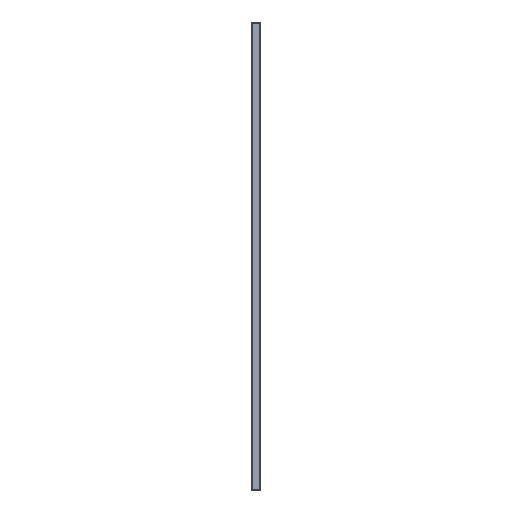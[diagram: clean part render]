
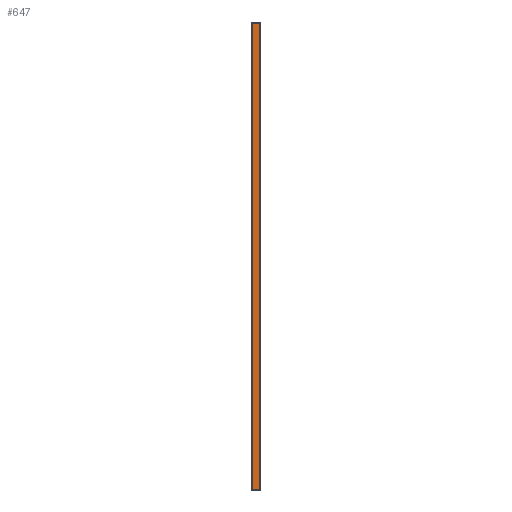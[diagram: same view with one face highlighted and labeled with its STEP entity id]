
A CAD part, left-side view. The second image highlights one B-rep face of the part: STEP entity #647.
In plain terms, the highlighted planar face has unit normal (-1, 0, 0) as drawn and (0, 0, 1) by its records, which use the part's own axes.
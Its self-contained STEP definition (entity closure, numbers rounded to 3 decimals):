
#647 = ADVANCED_FACE( '', ( #928 ), #929, .T. );
#928 = FACE_OUTER_BOUND( '', #1310, .T. );
#929 = PLANE( '', #1311 );
#1310 = EDGE_LOOP( '', ( #1974, #1975, #1976, #1977 ) );
#1311 = AXIS2_PLACEMENT_3D( '', #1978, #1979, #1980 );
#1974 = ORIENTED_EDGE( '', *, *, #2914, .T. );
#1975 = ORIENTED_EDGE( '', *, *, #2925, .T. );
#1976 = ORIENTED_EDGE( '', *, *, #2896, .T. );
#1977 = ORIENTED_EDGE( '', *, *, #2937, .T. );
#1978 = CARTESIAN_POINT( '', ( -997.547, -15.824, 0. ) );
#1979 = DIRECTION( '', ( 0., 0., 1. ) );
#1980 = DIRECTION( '', ( 1., 0., 0. ) );
#2896 = EDGE_CURVE( '', #3372, #3373, #3374, .T. );
#2914 = EDGE_CURVE( '', #3409, #3407, #3410, .T. );
#2925 = EDGE_CURVE( '', #3407, #3372, #3428, .T. );
#2937 = EDGE_CURVE( '', #3373, #3409, #3447, .T. );
#3372 = VERTEX_POINT( '', #4092 );
#3373 = VERTEX_POINT( '', #4093 );
#3374 = LINE( '', #4094, #4095 );
#3407 = VERTEX_POINT( '', #4139 );
#3409 = VERTEX_POINT( '', #4141 );
#3410 = LINE( '', #4142, #4143 );
#3428 = LINE( '', #4166, #4167 );
#3447 = LINE( '', #4190, #4191 );
#4092 = CARTESIAN_POINT( '', ( -997.547, 14.91, 0. ) );
#4093 = CARTESIAN_POINT( '', ( -997.547, -14.91, 0. ) );
#4094 = CARTESIAN_POINT( '', ( -997.547, 15.824, 0. ) );
#4095 = VECTOR( '', #5038, 1000. );
#4139 = CARTESIAN_POINT( '', ( 997.547, 14.91, 0. ) );
#4141 = CARTESIAN_POINT( '', ( 997.547, -14.91, 0. ) );
#4142 = CARTESIAN_POINT( '', ( 997.547, -15.824, 0. ) );
#4143 = VECTOR( '', #5068, 1000. );
#4166 = CARTESIAN_POINT( '', ( 997.547, 14.91, 0. ) );
#4167 = VECTOR( '', #5089, 1000. );
#4190 = CARTESIAN_POINT( '', ( -997.547, -14.91, 0. ) );
#4191 = VECTOR( '', #5115, 1000. );
#5038 = DIRECTION( '', ( 0., -1., 0. ) );
#5068 = DIRECTION( '', ( 0., 1., 0. ) );
#5089 = DIRECTION( '', ( -1., 0., 0. ) );
#5115 = DIRECTION( '', ( 1., 0., 0. ) );
